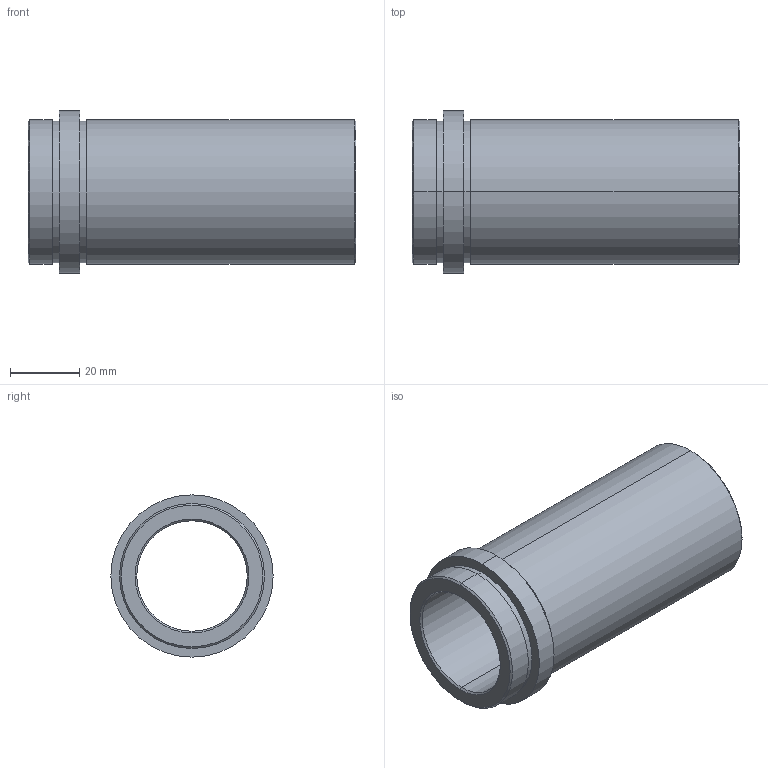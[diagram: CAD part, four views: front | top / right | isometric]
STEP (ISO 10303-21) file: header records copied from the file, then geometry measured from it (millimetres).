
FILE_DESCRIPTION( ( 'STEP AP203' ), '1' );
FILE_NAME( 'C:/Projects/D21 - 32x86.step', '2002-12-31T22:53:56', ( ' ' ), ( ' ' ), 'XStep 1.0', ' ', ' ' );
FILE_SCHEMA( ( 'CONFIG_CONTROL_DESIGN' ) );
Length unit declared in the file: metre
Products named in the file (1): 1
Bounding box: 95 x 47 x 47 mm (x, y, z)
Volume: 56991.6 mm3; surface area: 24153 mm2
Topology: 1 solids, 1 shells, 26 faces, 52 edges, 32 vertices
Faces by surface type: revolution 20, bspline 6
Entity records: 773 total; most frequent: CARTESIAN_POINT 169, DIRECTION 106, ORIENTED_EDGE 104, EDGE_CURVE 52, AXIS2_PLACEMENT_3D 33, EDGE_LOOP 32, VERTEX_POINT 32, CIRCLE 32
